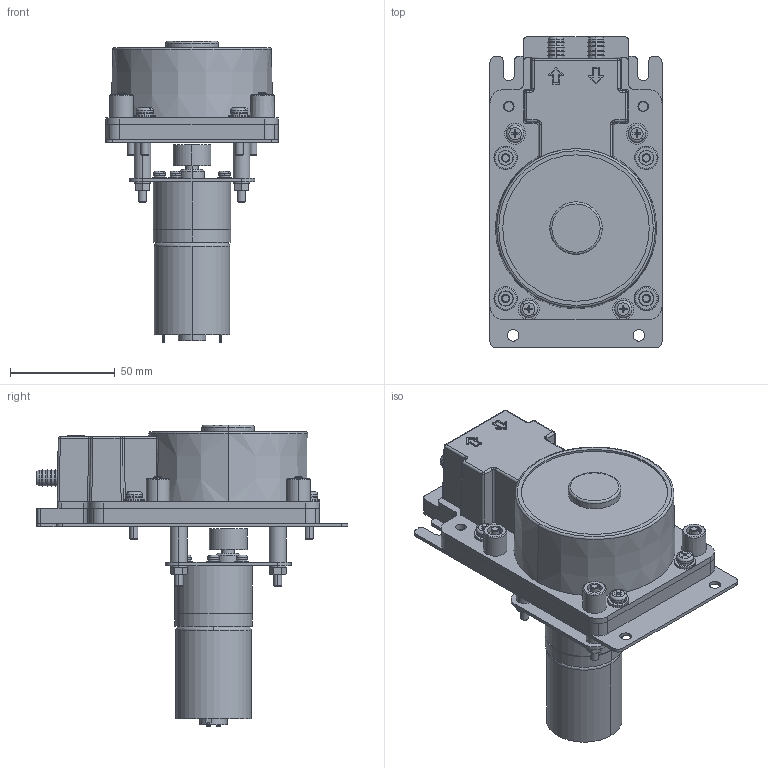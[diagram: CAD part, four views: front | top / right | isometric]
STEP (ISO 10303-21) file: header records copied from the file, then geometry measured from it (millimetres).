
FILE_DESCRIPTION (( 'STEP AP214' ), '1' );
FILE_NAME ('RP-WII-350Z_500Z.STEP', '2023-01-18T07:20:24', ( '' ), ( '' ), 'SwSTEP 2.0', 'SolidWorks 2022', '' );
FILE_SCHEMA (( 'AUTOMOTIVE_DESIGN' ));
Length unit declared in the file: millimetre
Products named in the file (18): RPW204F P 1 BASE; RPW204F P 1 NUT; TP-3644G-HM-36-A663-24_for_WⅡ; RPW204F P 1-11 JOINT; RPW204F P 1-4 PIPE; RPW204F P 1-6 SCREW 4X30; RPW204F P 2 WASHER; WEB用ジョイナー; For_WEB_RPW204F P 1-1 CASE; RPW204F P 1-3 SLEVE; RPW204F P 1-24 SCREW 4X20; RPW204F P 1-26 WASHER 3.1-6.5; RPW204F P 1-7 SPRING WASHER; RPW204F P 1-23 WASHER 4.5-10; RPW204F P 1-2 BASE PLATE; RP-WII-350Z_500Z; RPW204F P 1-5 MOTOR PLATE; RPW204F P 1-27 SCREW 3X5
Assembly tree (64 placements, depth 2):
  RP-WII-350Z_500Z
    RPW204F P 1 BASE
    RPW204F P 1-2 BASE PLATE
    RPW204F P 1-3 SLEVE  x4
    RPW204F P 1-4 PIPE  x4
    RPW204F P 1-5 MOTOR PLATE
    RPW204F P 1-6 SCREW 4X30  x4
    RPW204F P 1-7 SPRING WASHER  x12
    RPW204F P 1 NUT  x4
    RPW204F P 1-11 JOINT
    RPW204F P 1-23 WASHER 4.5-10  x8
    RPW204F P 1-24 SCREW 4X20  x8
    RPW204F P 1-26 WASHER 3.1-6.5  x4
    RPW204F P 1-27 SCREW 3X5  x4
    RPW204F P 2 WASHER  x4
    TP-3644G-HM-36-A663-24_for_WⅡ
    WEB用ジョイナー  x2
    For_WEB_RPW204F P 1-1 CASE
Bounding box: 82 x 148.5 x 143.5 mm (x, y, z)
Volume: 396553.1 mm3; surface area: 125738.1 mm2
Topology: 64 solids, 66 shells, 1702 faces, 4266 edges, 2782 vertices
Faces by surface type: cylinder 803, plane 685, torus 96, cone 94, bspline 18, sphere 6
Entity records: 28836 total; most frequent: CARTESIAN_POINT 5959, DIRECTION 4967, ORIENTED_EDGE 4380, EDGE_CURVE 2190, AXIS2_PLACEMENT_3D 1967, VERTEX_POINT 1433, CIRCLE 1050, EDGE_LOOP 1049
